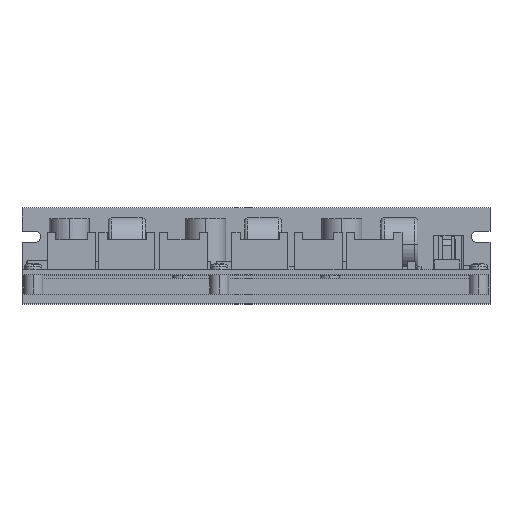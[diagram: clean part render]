
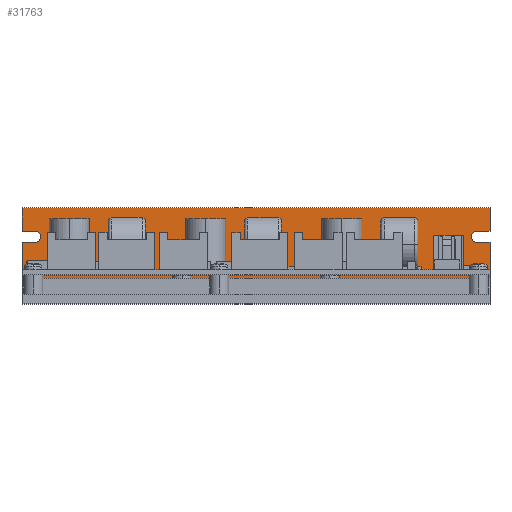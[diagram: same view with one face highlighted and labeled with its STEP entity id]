
A CAD part, top view. The second image highlights one B-rep face of the part: STEP entity #31763.
In plain terms, the highlighted planar face has unit normal (0, 0, 1) as drawn and (0, 0, -1) by its records, which use the part's own axes.
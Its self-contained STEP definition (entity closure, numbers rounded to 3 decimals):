
#764 = VECTOR ( 'NONE', #10310, 1000. ) ;
#1415 = EDGE_CURVE ( 'NONE', #2362, #29233, #31668, .T. ) ;
#1565 = ORIENTED_EDGE ( 'NONE', *, *, #10440, .F. ) ;
#1740 = CARTESIAN_POINT ( 'NONE',  ( -73., 30., -2. ) ) ;
#1921 = EDGE_CURVE ( 'NONE', #42430, #34058, #21427, .T. ) ;
#2362 = VERTEX_POINT ( 'NONE', #11314 ) ;
#2491 = VERTEX_POINT ( 'NONE', #8423 ) ;
#3351 = CARTESIAN_POINT ( 'NONE',  ( -73., 30., -2. ) ) ;
#3640 = PLANE ( 'NONE',  #29651 ) ;
#3925 = LINE ( 'NONE', #35301, #38362 ) ;
#4877 = DIRECTION ( 'NONE',  ( 0., 1., 0. ) ) ;
#5236 = CIRCLE ( 'NONE', #41522, 1.75 ) ;
#5718 = LINE ( 'NONE', #23536, #32061 ) ;
#5760 = CARTESIAN_POINT ( 'NONE',  ( -73., 19.25, -2. ) ) ;
#6107 = DIRECTION ( 'NONE',  ( 0., 0., -1. ) ) ;
#6282 = ORIENTED_EDGE ( 'NONE', *, *, #1921, .F. ) ;
#6452 = VECTOR ( 'NONE', #28261, 1000. ) ;
#7081 = VERTEX_POINT ( 'NONE', #30496 ) ;
#7125 = DIRECTION ( 'NONE',  ( 0., -1., 0. ) ) ;
#7201 = EDGE_LOOP ( 'NONE', ( #6282, #18481, #7564, #20992, #15095, #29072, #16553, #14770, #1565, #27308, #29734, #9398, #33929 ) ) ;
#7291 = DIRECTION ( 'NONE',  ( 0., 0., -1. ) ) ;
#7398 = EDGE_CURVE ( 'NONE', #37132, #11870, #33340, .T. ) ;
#7564 = ORIENTED_EDGE ( 'NONE', *, *, #7398, .F. ) ;
#7673 = CARTESIAN_POINT ( 'NONE',  ( -73., 22.75, -2. ) ) ;
#8049 = VERTEX_POINT ( 'NONE', #1740 ) ;
#8215 = CARTESIAN_POINT ( 'NONE',  ( 73., 30., -2. ) ) ;
#8423 = CARTESIAN_POINT ( 'NONE',  ( -73., 8., -2. ) ) ;
#8785 = LINE ( 'NONE', #5760, #17980 ) ;
#8891 = VERTEX_POINT ( 'NONE', #29401 ) ;
#9398 = ORIENTED_EDGE ( 'NONE', *, *, #1415, .F. ) ;
#9557 = CARTESIAN_POINT ( 'NONE',  ( -73., 30., -2. ) ) ;
#10310 = DIRECTION ( 'NONE',  ( 0., 1., 0. ) ) ;
#10440 = EDGE_CURVE ( 'NONE', #24375, #8891, #33871, .T. ) ;
#11066 = CARTESIAN_POINT ( 'NONE',  ( 73., 30., -2. ) ) ;
#11314 = CARTESIAN_POINT ( 'NONE',  ( 73., 22.75, -2. ) ) ;
#11870 = VERTEX_POINT ( 'NONE', #18351 ) ;
#12198 = CARTESIAN_POINT ( 'NONE',  ( 73., 30., -2. ) ) ;
#12841 = LINE ( 'NONE', #11066, #20917 ) ;
#13046 = DIRECTION ( 'NONE',  ( 0., 1., 0. ) ) ;
#13202 = EDGE_CURVE ( 'NONE', #8891, #37540, #5236, .T. ) ;
#13276 = LINE ( 'NONE', #30523, #30415 ) ;
#14658 = CARTESIAN_POINT ( 'NONE',  ( 69., 19.25, -2. ) ) ;
#14770 = ORIENTED_EDGE ( 'NONE', *, *, #13202, .F. ) ;
#15032 = EDGE_CURVE ( 'NONE', #40754, #7081, #8785, .T. ) ;
#15095 = ORIENTED_EDGE ( 'NONE', *, *, #37139, .T. ) ;
#15667 = DIRECTION ( 'NONE',  ( 0., 1., 0. ) ) ;
#16553 = ORIENTED_EDGE ( 'NONE', *, *, #38114, .F. ) ;
#17118 = CARTESIAN_POINT ( 'NONE',  ( -69., 21., -2. ) ) ;
#17980 = VECTOR ( 'NONE', #33245, 1000. ) ;
#18351 = CARTESIAN_POINT ( 'NONE',  ( 73., 19.25, -2. ) ) ;
#18481 = ORIENTED_EDGE ( 'NONE', *, *, #19285, .F. ) ;
#18820 = CARTESIAN_POINT ( 'NONE',  ( -69., 19.25, -2. ) ) ;
#19285 = EDGE_CURVE ( 'NONE', #11870, #42430, #3925, .T. ) ;
#20580 = DIRECTION ( 'NONE',  ( 0., -1., 0. ) ) ;
#20917 = VECTOR ( 'NONE', #21490, 1000. ) ;
#20992 = ORIENTED_EDGE ( 'NONE', *, *, #25803, .T. ) ;
#21427 = CIRCLE ( 'NONE', #23967, 1.75 ) ;
#21490 = DIRECTION ( 'NONE',  ( -1., 0., 0. ) ) ;
#22409 = EDGE_CURVE ( 'NONE', #34058, #2362, #13276, .T. ) ;
#22627 = VECTOR ( 'NONE', #4877, 1000. ) ;
#23536 = CARTESIAN_POINT ( 'NONE',  ( 73., 8., -2. ) ) ;
#23967 = AXIS2_PLACEMENT_3D ( 'NONE', #27925, #7291, #31349 ) ;
#24375 = VERTEX_POINT ( 'NONE', #7673 ) ;
#24475 = LINE ( 'NONE', #9557, #41653 ) ;
#24793 = CARTESIAN_POINT ( 'NONE',  ( -73., 22.75, -2. ) ) ;
#24853 = FACE_OUTER_BOUND ( 'NONE', #7201, .T. ) ;
#25118 = DIRECTION ( 'NONE',  ( -1., 0., 0. ) ) ;
#25803 = EDGE_CURVE ( 'NONE', #37132, #2491, #5718, .T. ) ;
#26744 = CARTESIAN_POINT ( 'NONE',  ( -69., 21., -2. ) ) ;
#27308 = ORIENTED_EDGE ( 'NONE', *, *, #37027, .T. ) ;
#27447 = CARTESIAN_POINT ( 'NONE',  ( 73., 8., -2. ) ) ;
#27736 = DIRECTION ( 'NONE',  ( 0., 0., 1. ) ) ;
#27925 = CARTESIAN_POINT ( 'NONE',  ( 69., 21., -2. ) ) ;
#28261 = DIRECTION ( 'NONE',  ( 1., 0., 0. ) ) ;
#29072 = ORIENTED_EDGE ( 'NONE', *, *, #15032, .F. ) ;
#29233 = VERTEX_POINT ( 'NONE', #37326 ) ;
#29308 = LINE ( 'NONE', #3351, #764 ) ;
#29401 = CARTESIAN_POINT ( 'NONE',  ( -69., 22.75, -2. ) ) ;
#29643 = CARTESIAN_POINT ( 'NONE',  ( -67.25, 21., -2. ) ) ;
#29651 = AXIS2_PLACEMENT_3D ( 'NONE', #37784, #27736, #7125 ) ;
#29734 = ORIENTED_EDGE ( 'NONE', *, *, #35193, .F. ) ;
#30177 = DIRECTION ( 'NONE',  ( 0., -1., 0. ) ) ;
#30415 = VECTOR ( 'NONE', #33825, 1000. ) ;
#30496 = CARTESIAN_POINT ( 'NONE',  ( -73., 19.25, -2. ) ) ;
#30523 = CARTESIAN_POINT ( 'NONE',  ( 73., 22.75, -2. ) ) ;
#31349 = DIRECTION ( 'NONE',  ( 0., -1., 0. ) ) ;
#31668 = LINE ( 'NONE', #8215, #22627 ) ;
#31763 = ADVANCED_FACE ( 'NONE', ( #24853 ), #3640, .F. ) ;
#31891 = AXIS2_PLACEMENT_3D ( 'NONE', #26744, #6107, #30177 ) ;
#32061 = VECTOR ( 'NONE', #37016, 1000. ) ;
#33245 = DIRECTION ( 'NONE',  ( -1., 0., 0. ) ) ;
#33340 = LINE ( 'NONE', #12198, #34432 ) ;
#33825 = DIRECTION ( 'NONE',  ( 1., 0., 0. ) ) ;
#33871 = LINE ( 'NONE', #24793, #6452 ) ;
#33929 = ORIENTED_EDGE ( 'NONE', *, *, #22409, .F. ) ;
#34058 = VERTEX_POINT ( 'NONE', #41794 ) ;
#34432 = VECTOR ( 'NONE', #15667, 1000. ) ;
#35193 = EDGE_CURVE ( 'NONE', #29233, #8049, #12841, .T. ) ;
#35301 = CARTESIAN_POINT ( 'NONE',  ( 73., 19.25, -2. ) ) ;
#37016 = DIRECTION ( 'NONE',  ( -1., 0., 0. ) ) ;
#37027 = EDGE_CURVE ( 'NONE', #24375, #8049, #24475, .T. ) ;
#37132 = VERTEX_POINT ( 'NONE', #27447 ) ;
#37139 = EDGE_CURVE ( 'NONE', #2491, #7081, #29308, .T. ) ;
#37326 = CARTESIAN_POINT ( 'NONE',  ( 73., 30., -2. ) ) ;
#37540 = VERTEX_POINT ( 'NONE', #29643 ) ;
#37784 = CARTESIAN_POINT ( 'NONE',  ( 73., 30., -2. ) ) ;
#38114 = EDGE_CURVE ( 'NONE', #37540, #40754, #43067, .T. ) ;
#38362 = VECTOR ( 'NONE', #25118, 1000. ) ;
#40754 = VERTEX_POINT ( 'NONE', #18820 ) ;
#41081 = DIRECTION ( 'NONE',  ( 0., 0., -1. ) ) ;
#41522 = AXIS2_PLACEMENT_3D ( 'NONE', #17118, #41081, #20580 ) ;
#41653 = VECTOR ( 'NONE', #13046, 1000. ) ;
#41794 = CARTESIAN_POINT ( 'NONE',  ( 69., 22.75, -2. ) ) ;
#42430 = VERTEX_POINT ( 'NONE', #14658 ) ;
#43067 = CIRCLE ( 'NONE', #31891, 1.75 ) ;
